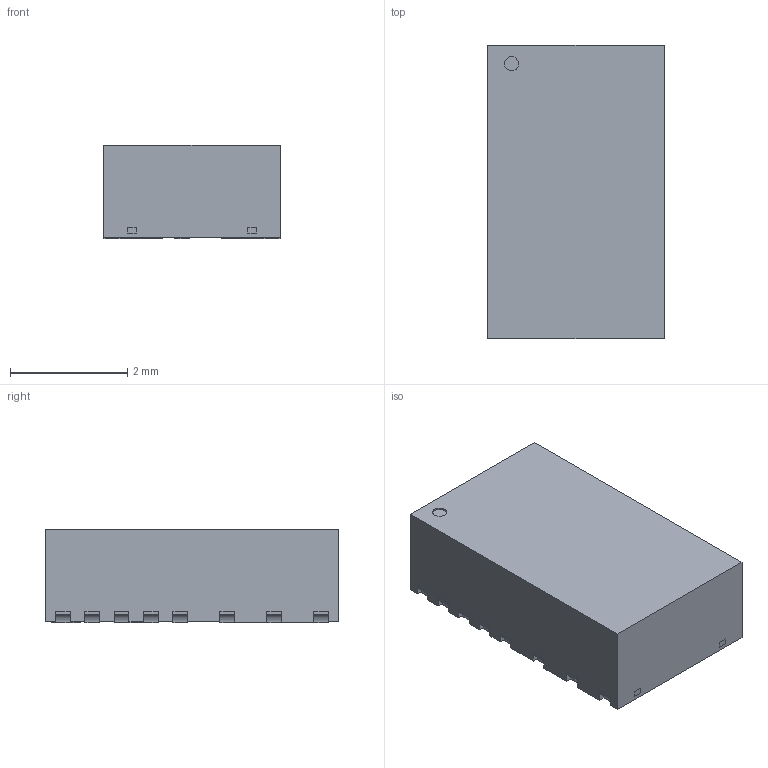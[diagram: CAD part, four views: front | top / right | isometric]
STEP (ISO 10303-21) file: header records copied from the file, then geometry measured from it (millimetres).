
FILE_DESCRIPTION (( 'STEP AP214' ), '1' );
FILE_NAME ('RPY-1.5Q_3D_20211005.STEP', '2022-05-27T08:43:39', ( '' ), ( '' ), 'SwSTEP 2.0', 'SolidWorks 2020', '' );
FILE_SCHEMA (( 'AUTOMOTIVE_DESIGN' ));
Length unit declared in the file: millimetre
Products named in the file (2): RPY-1.5Q_3D_20211005
Assembly tree (1 placements, depth 2):
  RPY-1.5Q_3D_20211005
    RPY-1.5Q_3D_20211005
Bounding box: 3 x 5 x 1.6 mm (x, y, z)
Volume: 23.7 mm3; surface area: 95.4 mm2
Topology: 11 solids, 11 shells, 545 faces, 1586 edges, 1056 vertices
Faces by surface type: plane 419, cylinder 125, bspline 1
Entity records: 18056 total; most frequent: CARTESIAN_POINT 3200, ORIENTED_EDGE 3172, DIRECTION 2938, EDGE_CURVE 1586, VECTOR 1326, LINE 1326, VERTEX_POINT 1056, AXIS2_PLACEMENT_3D 806
